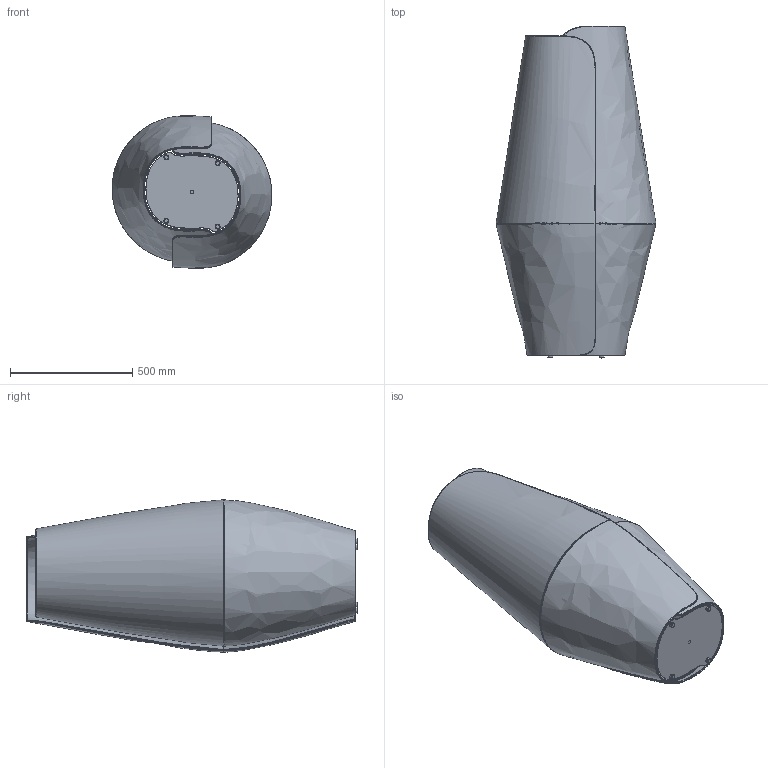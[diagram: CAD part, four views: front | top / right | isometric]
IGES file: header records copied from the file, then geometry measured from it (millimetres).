
Start section: SolidWorks IGES file using analytic representation for surfaces
Global section: file name: C:\Users\liamb\Dropbox\Rakumba Marketing - Design\LIGHTWEIGHT CAD MODEL LIBRARY\Exported File Formats FOR CLIENT USE - Public\Volute\Volute 1400 Floor\Volute - Floor 1400 .IGS; native system: SolidWorks 2017; preprocessor: SolidWorks 2017; author: liamb; date: 230331.095828; units: millimetre
Bounding box: 654.39 x 1360 x 624.99 mm (x, y, z)
Surface area: 5527096.2 mm2 (no closed solid volume)
Topology: 0 solids, 0 shells, 190 faces, 4372 edges, 4363 vertices
Faces by surface type: bspline 160, revolution 30
